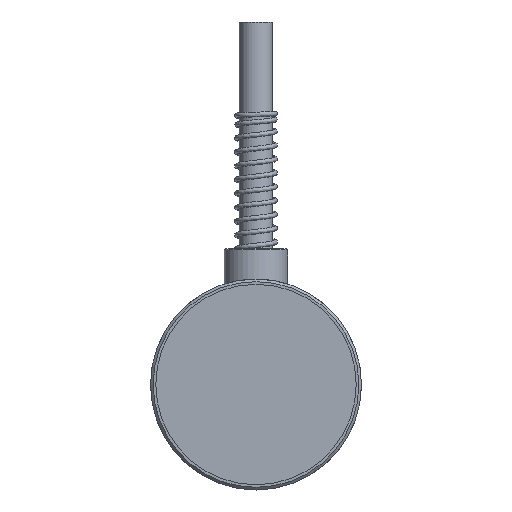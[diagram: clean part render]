
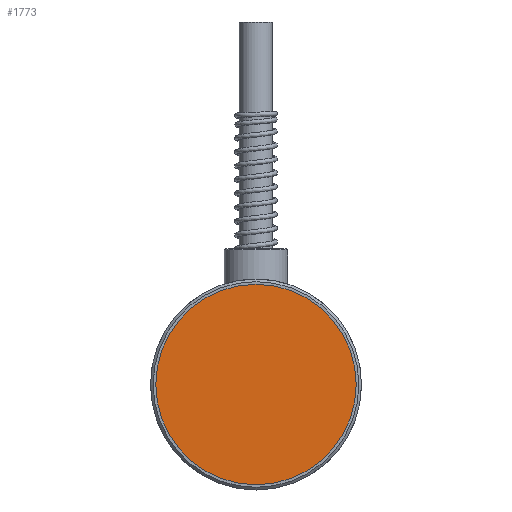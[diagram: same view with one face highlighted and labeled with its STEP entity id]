
A CAD part, left-side view. The second image highlights one B-rep face of the part: STEP entity #1773.
In plain terms, the highlighted planar face has unit normal (-1, 0, 0).
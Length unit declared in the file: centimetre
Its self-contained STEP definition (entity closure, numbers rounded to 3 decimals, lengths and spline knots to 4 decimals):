
#820=PLANE('',#1866);
#859=VERTEX_POINT('',#2304);
#972=CIRCLE('',#1864,0.95);
#1040=EDGE_CURVE('',#859,#859,#972,.T.);
#1233=ORIENTED_EDGE('',*,*,#1040,.T.);
#1558=EDGE_LOOP('',(#1233));
#1668=FACE_BOUND('',#1558,.T.);
#1773=ADVANCED_FACE('',(#1668),#820,.T.);
#1864=AXIS2_PLACEMENT_3D('',#2303,#2012,#2013);
#1866=AXIS2_PLACEMENT_3D('',#2307,#2016,$);
#2012=DIRECTION('',(-1.,0.,0.));
#2013=DIRECTION('',(0.,0.,0.95));
#2016=DIRECTION('',(-1.,0.,0.));
#2303=CARTESIAN_POINT('',(0.05,0.,0.));
#2304=CARTESIAN_POINT('',(0.05,0.,0.95));
#2307=CARTESIAN_POINT('',(0.05,0.,0.));
